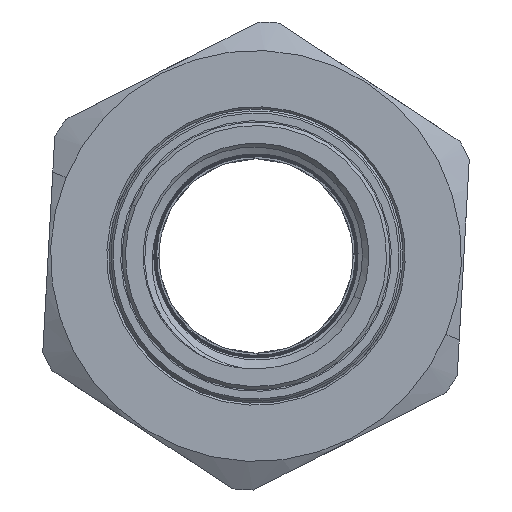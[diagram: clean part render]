
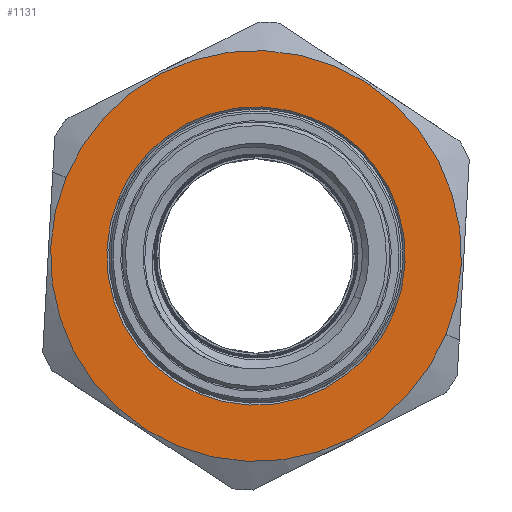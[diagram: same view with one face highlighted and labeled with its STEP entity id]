
A CAD part, left-side view. The second image highlights one B-rep face of the part: STEP entity #1131.
In plain terms, the highlighted planar face has unit normal (-1, 0, 0) as drawn and (1, 0, 0) by its records, which use the part's own axes.
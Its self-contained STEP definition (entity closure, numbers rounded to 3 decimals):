
#364 = EDGE_LOOP ( 'NONE', ( #13378, #13383 ) ) ;
#396 = EDGE_LOOP ( 'NONE', ( #13376, #13397 ) ) ;
#559 = VERTEX_POINT ( 'NONE', #10600 ) ;
#564 = VERTEX_POINT ( 'NONE', #10607 ) ;
#619 = VERTEX_POINT ( 'NONE', #10673 ) ;
#629 = VERTEX_POINT ( 'NONE', #10675 ) ;
#1131 = ADVANCED_FACE ( 'NONE', ( #5326, #5338 ), #4543, .F. ) ;
#1194 = EDGE_CURVE ( 'NONE', #559, #564, #5431, .T. ) ;
#1197 = EDGE_CURVE ( 'NONE', #619, #629, #5403, .T. ) ;
#4537 = CARTESIAN_POINT ( 'NONE',  ( 15.5, 21.7, 0. ) ) ;
#4543 = PLANE ( 'NONE',  #7026 ) ;
#4547 = DIRECTION ( 'NONE',  ( -1., 0., 0. ) ) ;
#4551 = DIRECTION ( 'NONE',  ( 0., 0., 1. ) ) ;
#5326 = FACE_BOUND ( 'NONE', #364, .T. ) ;
#5338 = FACE_OUTER_BOUND ( 'NONE', #396, .T. ) ;
#5403 = CIRCLE ( 'NONE', #7100, 22. ) ;
#5431 = CIRCLE ( 'NONE', #7101, 30.3 ) ;
#6188 = CARTESIAN_POINT ( 'NONE',  ( 15.5, 0., 0. ) ) ;
#6198 = DIRECTION ( 'NONE',  ( -1., 0., 0. ) ) ;
#6210 = DIRECTION ( 'NONE',  ( 0., 0., 1. ) ) ;
#6655 = CIRCLE ( 'NONE', #7177, 22. ) ;
#6666 = CIRCLE ( 'NONE', #7192, 30.3 ) ;
#7026 = AXIS2_PLACEMENT_3D ( 'NONE', #4537, #4547, #4551 ) ;
#7100 = AXIS2_PLACEMENT_3D ( 'NONE', #11645, #11648, #11646 ) ;
#7101 = AXIS2_PLACEMENT_3D ( 'NONE', #11548, #11517, #11525 ) ;
#7177 = AXIS2_PLACEMENT_3D ( 'NONE', #8921, #8918, #8906 ) ;
#7192 = AXIS2_PLACEMENT_3D ( 'NONE', #6188, #6198, #6210 ) ;
#8906 = DIRECTION ( 'NONE',  ( 0., 0., 1. ) ) ;
#8918 = DIRECTION ( 'NONE',  ( -1., 0., 0. ) ) ;
#8921 = CARTESIAN_POINT ( 'NONE',  ( 15.5, 0., 0. ) ) ;
#9194 = EDGE_CURVE ( 'NONE', #629, #619, #6655, .T. ) ;
#9235 = EDGE_CURVE ( 'NONE', #564, #559, #6666, .T. ) ;
#10600 = CARTESIAN_POINT ( 'NONE',  ( 15.5, 0., -30.3 ) ) ;
#10607 = CARTESIAN_POINT ( 'NONE',  ( 15.5, 0., 30.3 ) ) ;
#10673 = CARTESIAN_POINT ( 'NONE',  ( 15.5, 0., 22. ) ) ;
#10675 = CARTESIAN_POINT ( 'NONE',  ( 15.5, 0., -22. ) ) ;
#11517 = DIRECTION ( 'NONE',  ( -1., 0., 0. ) ) ;
#11525 = DIRECTION ( 'NONE',  ( 0., 0., 1. ) ) ;
#11548 = CARTESIAN_POINT ( 'NONE',  ( 15.5, 0., 0. ) ) ;
#11645 = CARTESIAN_POINT ( 'NONE',  ( 15.5, 0., 0. ) ) ;
#11646 = DIRECTION ( 'NONE',  ( 0., 0., 1. ) ) ;
#11648 = DIRECTION ( 'NONE',  ( -1., 0., 0. ) ) ;
#13376 = ORIENTED_EDGE ( 'NONE', *, *, #9235, .F. ) ;
#13378 = ORIENTED_EDGE ( 'NONE', *, *, #9194, .T. ) ;
#13383 = ORIENTED_EDGE ( 'NONE', *, *, #1197, .T. ) ;
#13397 = ORIENTED_EDGE ( 'NONE', *, *, #1194, .F. ) ;
